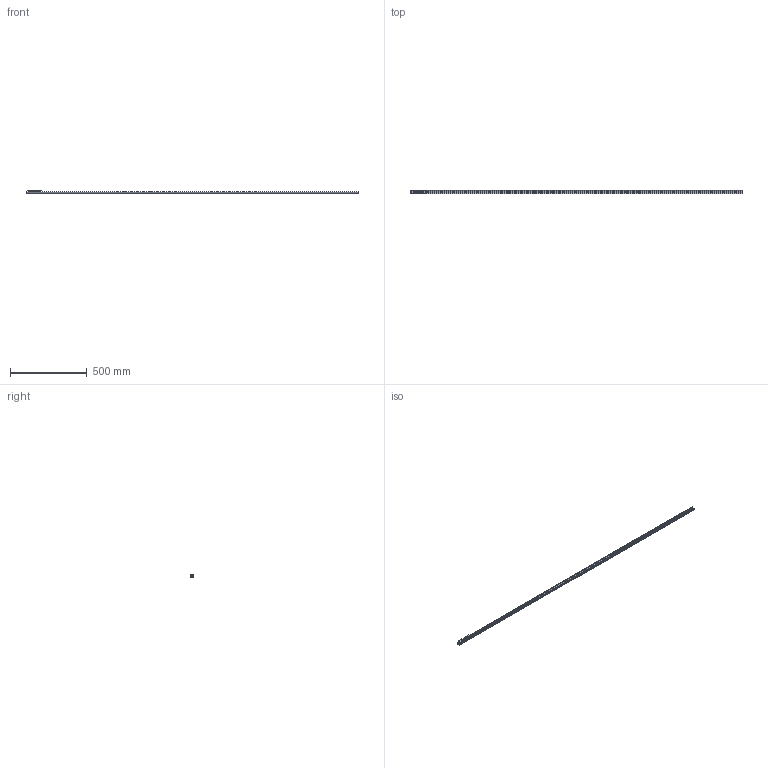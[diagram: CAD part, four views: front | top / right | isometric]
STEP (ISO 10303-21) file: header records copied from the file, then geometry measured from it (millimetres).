
FILE_DESCRIPTION( ( 'STEP AP214' ), '1' );
FILE_NAME( 'p:/temp/worker_24/temp/exporttempdir_84984_229_MLJ4U/format_1/TEN26-2160-CEN26-92.stp', '2020-05-08T18:52:27', ( 'License CC BY-ND 4.0' ), ( 'CADENAS' ), ' ', 'PARTsolutions', ' ' );
FILE_SCHEMA( ( 'AUTOMOTIVE_DESIGN { 1 0 10303 214 1 1 1 1 }' ) );
Length unit declared in the file: millimetre
Products named in the file (6): TEN26-2160-CEN26-92; _TEN 26-2160; _CEN26-92_1; _RLN26(11.2_M5); _RLA26(11.2_M5); _LAN-26
Assembly tree (8 placements, depth 2):
  TEN26-2160-CEN26-92
    _TEN 26-2160
    _CEN26-92_1
    _RLN26(11.2_M5)  x2
    _RLA26(11.2_M5)
    _LAN-26  x3
Bounding box: 2160 x 25.96 x 22 mm (x, y, z)
Volume: 236421.1 mm3; surface area: 199972 mm2
Topology: 8 solids, 8 shells, 260 faces, 582 edges, 365 vertices
Faces by surface type: plane 131, cylinder 96, cone 24, bspline 9
Full cylindrical faces by diameter (mm): 2.5 x2, 4.134 x5, 4.5 x3, 5 x6, 6.5 x27, 9.3 x3, 11.2 x6, 11.6 x6, 15.7 x6, 16.7 x6
Entity records: 6392 total; most frequent: CARTESIAN_POINT 920, DIRECTION 874, ORIENTED_EDGE 642, AXIS2_PLACEMENT_3D 373, EDGE_LOOP 340, EDGE_CURVE 321, VERTEX_POINT 251, FACE_OUTER_BOUND 238
